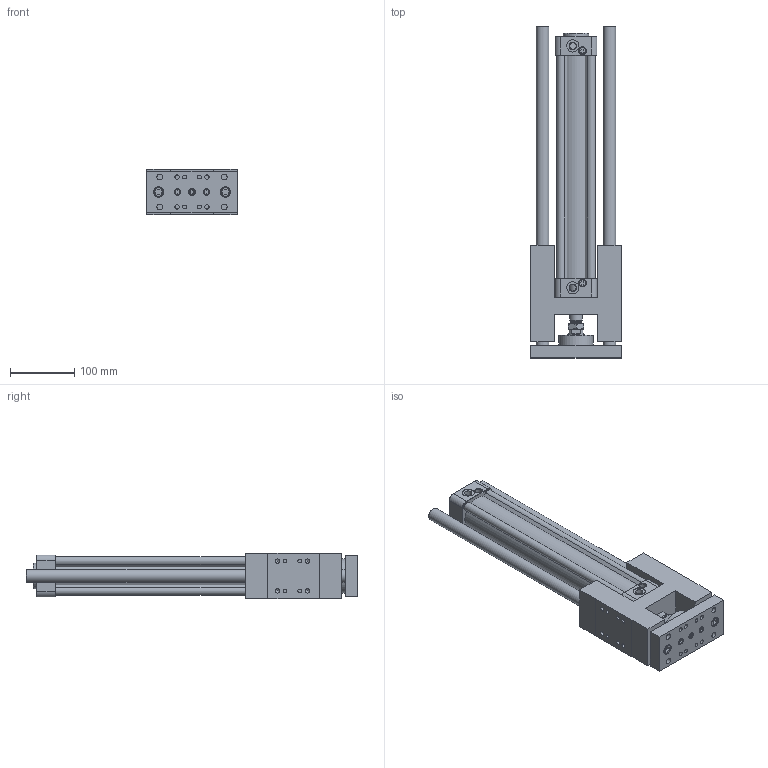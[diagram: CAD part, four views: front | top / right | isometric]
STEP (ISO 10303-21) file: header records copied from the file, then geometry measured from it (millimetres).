
FILE_DESCRIPTION((''),'2;1');
FILE_NAME('I:\3D電子目錄\氣缸\GHB(U)\GHB(U)\GHB(U)50\GHB(U)50x300.stp','2007-10-19T16:41:37',('Administrator'),(''),'Autodesk Inventor 11','Autodesk Inventor 11','');
FILE_SCHEMA(('AUTOMOTIVE_DESIGN { 1 0 10303 214 1 1 1 1 }'));
Length unit declared in the file: millimetre
Products named in the file (1): GHB(U)50
Bounding box: 141 x 516 x 70 mm (x, y, z)
Volume: 1788288.3 mm3; surface area: 414508 mm2
Topology: 1 solids, 13 shells, 779 faces, 1736 edges, 1075 vertices
Faces by surface type: plane 299, bspline 222, cylinder 163, cone 88, torus 7
Full cylindrical faces by diameter (mm): 2.5 x2, 6 x8, 6.647 x4, 6.7 x2, 6.75 x4, 7.25 x2, 7.4 x4, 7.5 x2, 8.5 x9, 9 x2, 9.8 x4, 10 x5, 11.5 x1, 11.9 x1, 12 x3, 13 x4, 14 x8, 14.5 x2, 16 x3, 19 x2, 20 x4, 23 x1, 25 x1, 26 x2, 40 x1, 50 x1, 54 x1
Entity records: 22633 total; most frequent: CARTESIAN_POINT 7068, DIRECTION 3100, ORIENTED_EDGE 3020, EDGE_CURVE 1510, AXIS2_PLACEMENT_3D 1202, EDGE_LOOP 1071, VERTEX_POINT 1029, FACE_OUTER_BOUND 778
